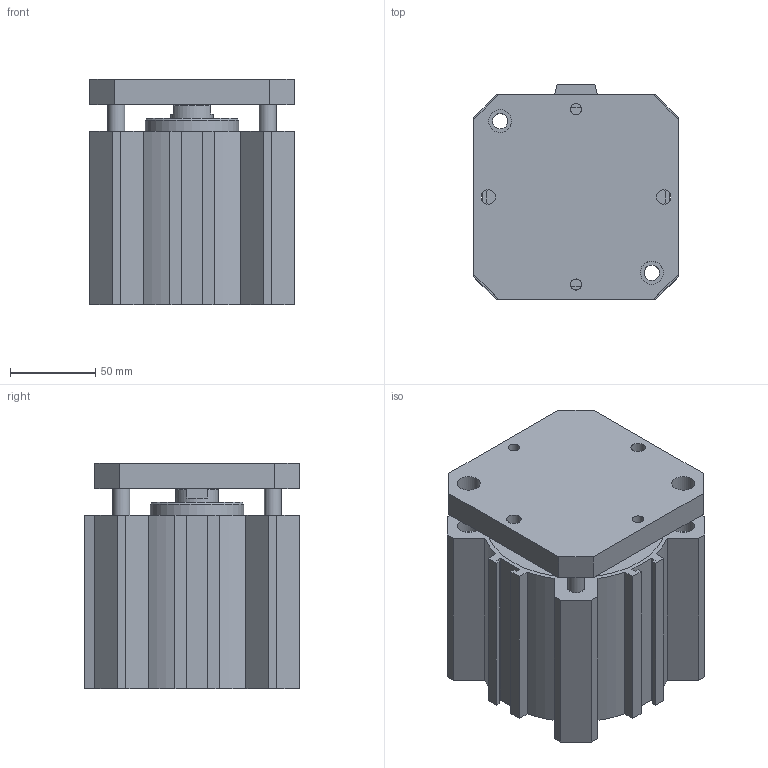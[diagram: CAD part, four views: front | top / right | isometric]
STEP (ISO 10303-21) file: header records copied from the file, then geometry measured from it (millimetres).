
FILE_DESCRIPTION(/* description */ (''),/* implementation_level */ '2;1');
FILE_NAME(/* name */ 'I:\Area Tecnica\Disegni\VARIE-3D\Componenti\1500\Ø100\15##_100_####_#\1501_100_0055_AR.stp',/* time_stamp */ '2016-08-24T15:10:05+02:00',/* author */ ('Maniean1'),/* organization */ (''),/* preprocessor_version */ 'ST-DEVELOPER v15.2',/* originating_system */ 'Autodesk Inventor 2014',/* authorisation */ '');
FILE_SCHEMA (('AUTOMOTIVE_DESIGN { 1 0 10303 214 3 1 1 }'));
Length unit declared in the file: millimetre
Products named in the file (3): C_1501_100_0055_AR; S_1501_100_0055_AR; 1501_100_0055_AR
Bounding box: 120 x 126 x 132.5 mm (x, y, z)
Volume: 1000321.4 mm3; surface area: 213439.1 mm2
Topology: 2 solids, 2 shells, 139 faces, 342 edges, 229 vertices
Faces by surface type: plane 94, cylinder 40, cone 5
Full cylindrical faces by diameter (mm): 6.647 x2, 8.5 x2, 9 x4, 10 x4, 13.5 x10, 14.95 x2, 25 x2, 55 x2, 100 x2, 105 x2
Entity records: 3978 total; most frequent: CARTESIAN_POINT 674, DIRECTION 672, ORIENTED_EDGE 600, EDGE_CURVE 300, AXIS2_PLACEMENT_3D 232, VERTEX_POINT 222, EDGE_LOOP 216, LINE 208
